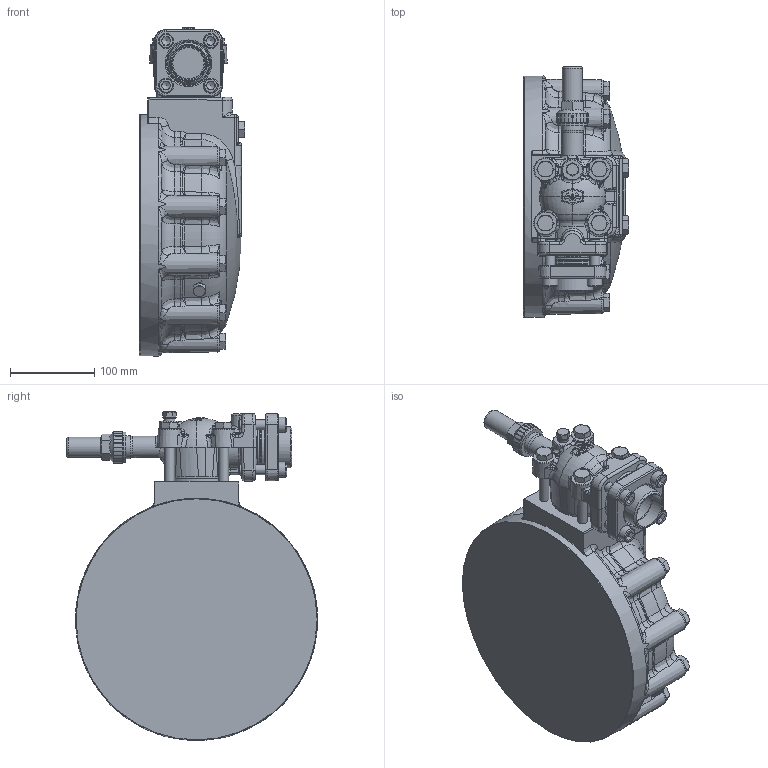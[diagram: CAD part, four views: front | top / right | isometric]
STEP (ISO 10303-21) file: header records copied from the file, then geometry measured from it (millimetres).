
FILE_DESCRIPTION(/* description */ (''),/* implementation_level */ '2;1');
FILE_NAME(/* name */ '4JE-4HE15-18.stp',/* time_stamp */ '2023-10-23T14:29:42+02:00',/* author */ (''),/* organization */ (''),/* preprocessor_version */ 'ST-DEVELOPER v19.3',/* originating_system */ 'SIEMENS PLM Software NX2212.3001',/* authorisation */ '');
FILE_SCHEMA (('AUTOMOTIVE_DESIGN { 1 0 10303 214 3 1 1 1 }'));
Products named in the file (3): HOUSING-COVER-4J-13-4H-15; SHUT-OFF-VALVE-D42L-DN40; 4JE-4HE15-18
Assembly tree (2 placements, depth 2):
  4JE-4HE15-18
    SHUT-OFF-VALVE-D42L-DN40
    HOUSING-COVER-4J-13-4H-15
Bounding box: 124.5 x 297.65 x 389.25 mm (x, y, z)
Volume: 7235125 mm3; surface area: 355661.1 mm2
Topology: 2 solids, 3 shells, 2542 faces, 6368 edges, 3825 vertices
Faces by surface type: plane 860, bspline 642, extrusion 328, cylinder 301, cone 210, torus 149, sphere 52
Full cylindrical faces by diameter (mm): 1.5 x1, 10 x4, 10.2 x4, 11.794 x4, 12 x8, 12.223 x1, 13 x8, 13.7 x1, 16.5 x1, 16.6 x4, 18 x4, 24 x1, 27 x1, 36 x1, 37 x1, 39 x1, 40 x1, 41.4 x1, 42.2 x1, 49 x1, 52 x1, 52.5 x1, 53 x1, 54 x1, 57 x3, 58.5 x1, 70 x1, 286 x1
Entity records: 116958 total; most frequent: CARTESIAN_POINT 52635, ORIENTED_EDGE 12142, DIRECTION 8699, EDGE_CURVE 6071, VERTEX_POINT 3771, AXIS2_PLACEMENT_3D 3108, EDGE_LOOP 2784, B_SPLINE_CURVE_WITH_KNOTS 2710
